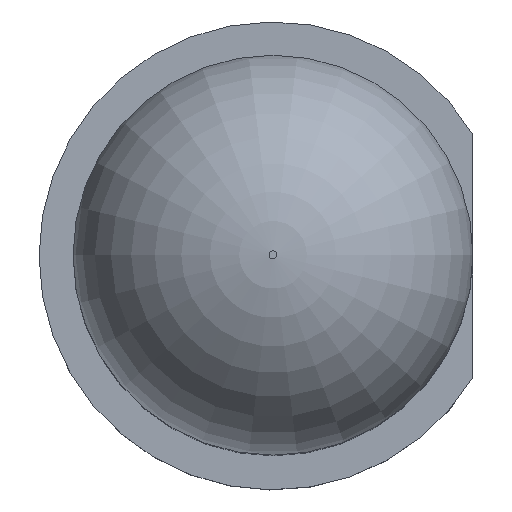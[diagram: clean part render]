
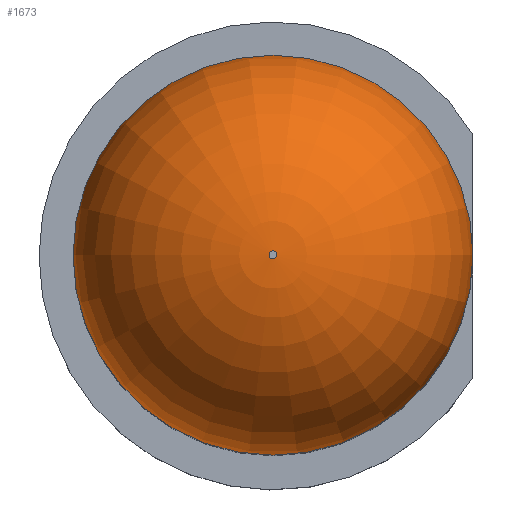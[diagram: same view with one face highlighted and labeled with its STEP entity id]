
A CAD part, top view. The second image highlights one B-rep face of the part: STEP entity #1673.
In plain terms, the highlighted toroidal (fillet/blend) face has major radius 0.05 mm and minor radius 2.45 mm.
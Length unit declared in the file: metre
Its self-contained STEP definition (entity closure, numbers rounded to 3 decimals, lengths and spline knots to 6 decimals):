
#57=DEGENERATE_TOROIDAL_SURFACE('',#1812,0.00005,0.00245,.T.);
#61=CIRCLE('',#1809,0.0025);
#62=CIRCLE('',#1811,0.00005);
#479=ORIENTED_EDGE('',*,*,#963,.T.);
#480=ORIENTED_EDGE('',*,*,#964,.F.);
#963=EDGE_CURVE('',#1207,#1207,#61,.T.);
#964=EDGE_CURVE('',#1208,#1208,#62,.T.);
#1207=VERTEX_POINT('',#2332);
#1208=VERTEX_POINT('',#2335);
#1405=EDGE_LOOP('',(#479));
#1406=EDGE_LOOP('',(#480));
#1509=FACE_BOUND('',#1405,.T.);
#1510=FACE_BOUND('',#1406,.T.);
#1673=ADVANCED_FACE('',(#1509,#1510),#57,.T.);
#1809=AXIS2_PLACEMENT_3D('',#2331,#1913,#1914);
#1811=AXIS2_PLACEMENT_3D('',#2334,#1917,#1918);
#1812=AXIS2_PLACEMENT_3D('',#2336,#1919,#1920);
#1913=DIRECTION('',(0.,0.,1.));
#1914=DIRECTION('',(1.,0.,0.));
#1917=DIRECTION('',(0.,0.,1.));
#1918=DIRECTION('',(1.,0.,0.));
#1919=DIRECTION('',(0.,0.,1.));
#1920=DIRECTION('',(1.,0.,0.));
#2331=CARTESIAN_POINT('',(0.,0.,0.0062));
#2332=CARTESIAN_POINT('',(0.0025,0.,0.0062));
#2334=CARTESIAN_POINT('',(0.,0.,0.00865));
#2335=CARTESIAN_POINT('',(0.00005,0.,0.00865));
#2336=CARTESIAN_POINT('',(0.,0.,0.0062));
